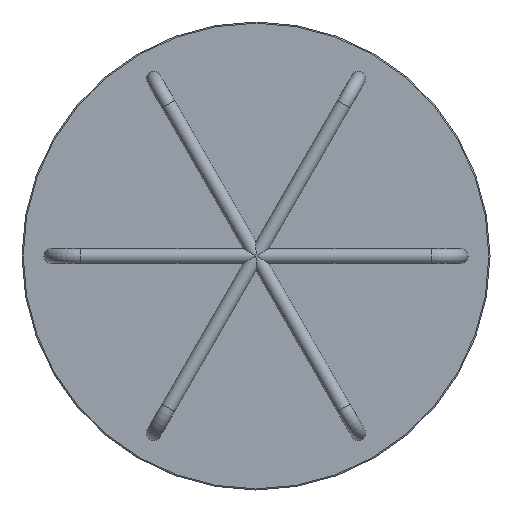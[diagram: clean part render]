
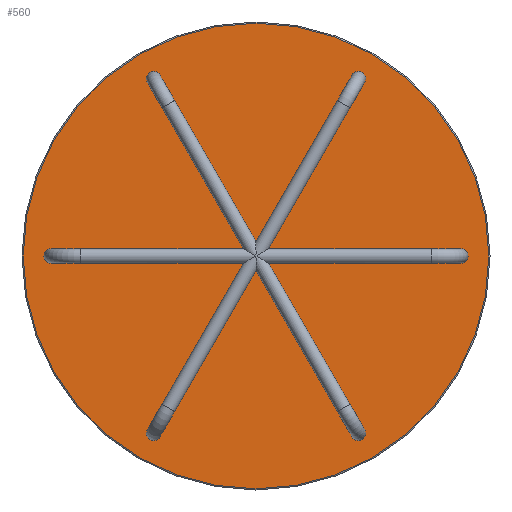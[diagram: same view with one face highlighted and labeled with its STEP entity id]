
A CAD part, front view. The second image highlights one B-rep face of the part: STEP entity #560.
In plain terms, the highlighted planar face has unit normal (0, -1, 0).
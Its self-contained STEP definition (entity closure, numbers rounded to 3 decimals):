
#79=PLANE('',#635);
#100=FACE_OUTER_BOUND('',#143,.T.);
#143=EDGE_LOOP('',(#440));
#236=CIRCLE('',#633,398.);
#284=VERTEX_POINT('',#988);
#335=EDGE_CURVE('',#284,#284,#236,.T.);
#440=ORIENTED_EDGE('',*,*,#335,.F.);
#560=ADVANCED_FACE('',(#100),#79,.F.);
#633=AXIS2_PLACEMENT_3D('',#989,#776,#777);
#635=AXIS2_PLACEMENT_3D('',#991,#780,#781);
#776=DIRECTION('center_axis',(0.,1.,0.));
#777=DIRECTION('ref_axis',(1.,0.,0.));
#780=DIRECTION('center_axis',(0.,1.,0.));
#781=DIRECTION('ref_axis',(1.,0.,0.));
#988=CARTESIAN_POINT('',(0.,414.,398.));
#989=CARTESIAN_POINT('Origin',(0.,414.,0.));
#991=CARTESIAN_POINT('Origin',(0.,414.,0.));
